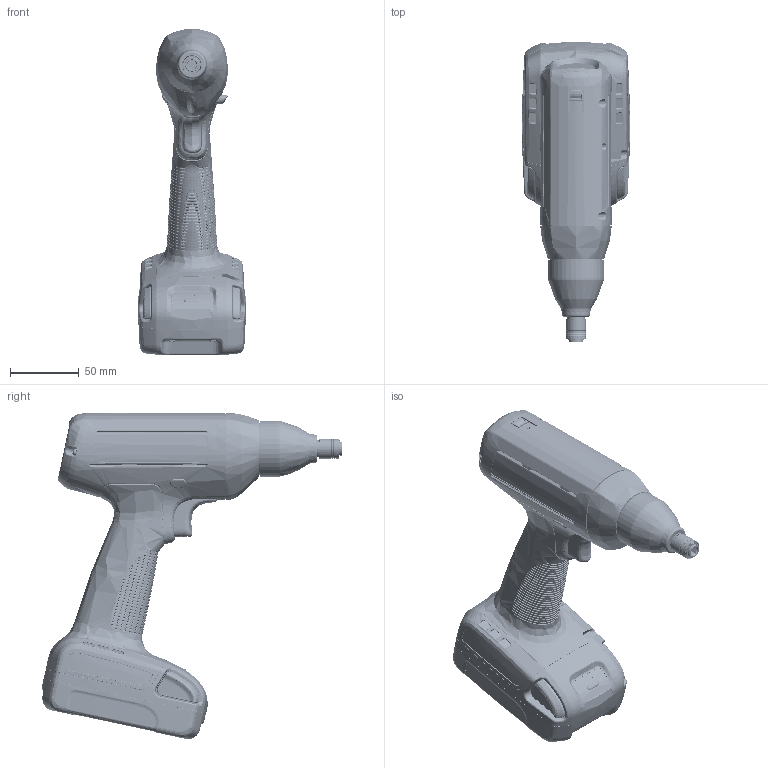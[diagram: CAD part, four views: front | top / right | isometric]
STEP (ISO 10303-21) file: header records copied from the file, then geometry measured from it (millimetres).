
FILE_DESCRIPTION(/* description */ (''),/* implementation_level */ '2;1');
FILE_NAME(/* name */ 'VIPER',/* time_stamp */ '2013-01-29T16:26:32-05:00',/* author */ (''),/* organization */ (''),/* preprocessor_version */ 'ST-DEVELOPER v9',/* originating_system */ 'UGS - NX 4.0',/* authorisation */ '');
FILE_SCHEMA (('AUTOMOTIVE_DESIGN { 1 0 10303 214 1 1 1 1 }'));
Products named in the file (1): rrue744Eeiua
Bounding box: 78.33 x 218.22 x 236.98 mm (x, y, z)
Volume: 5366.6 mm3; surface area: 137932.1 mm2
Topology: 41 solids, 45 shells, 7308 faces, 18790 edges, 11537 vertices
Faces by surface type: bspline 3516, cylinder 1574, plane 1325, sphere 284, torus 265, cone 172, extrusion 171, revolution 1
Full cylindrical faces by diameter (mm): 2.074 x12, 2.207 x5, 2.4 x17, 2.45 x12, 2.5 x1, 3.5 x4, 5.15 x8, 5.45 x4, 9.525 x1, 10.16 x2, 10.45 x1, 10.452 x1, 12.387 x1, 12.6 x1, 12.64 x2, 12.844 x1, 12.903 x1, 14.044 x3, 14.344 x4, 37.848 x1, 38.15 x1, 40.75 x1
Entity records: 399099 total; most frequent: CARTESIAN_POINT 250956, ORIENTED_EDGE 36534, DIRECTION 23137, EDGE_CURVE 18267, VERTEX_POINT 11376, AXIS2_PLACEMENT_3D 9373, B_SPLINE_CURVE_WITH_KNOTS 8032, EDGE_LOOP 7596
